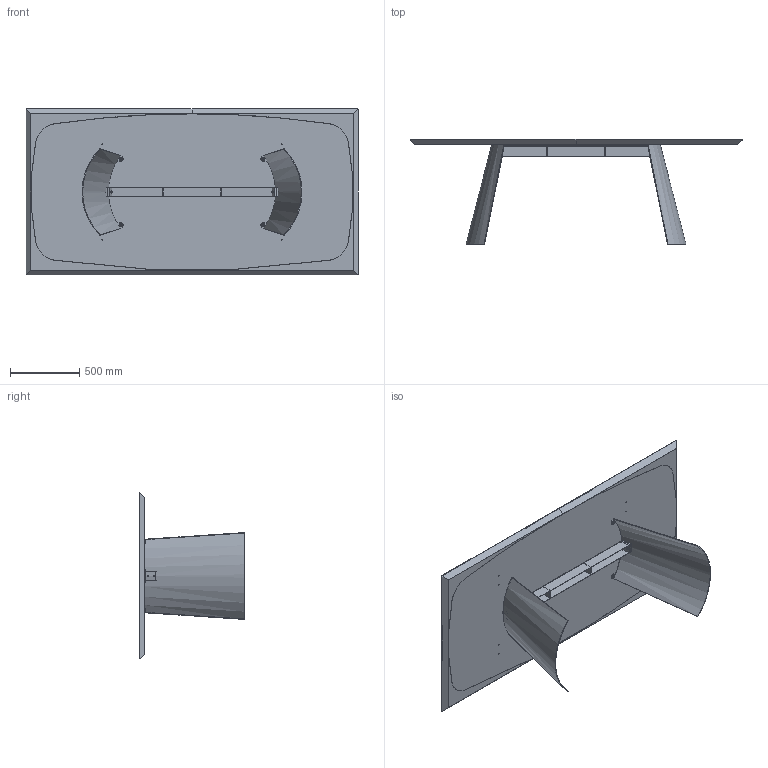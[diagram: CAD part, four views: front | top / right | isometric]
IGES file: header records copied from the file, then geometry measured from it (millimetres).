
Start section: SolidWorks IGES file using analytic representation for surfaces
Global section: file name: Y:\eforma\TECNICO\SOLIDWORKS\E-FORMA\1-TAVOLI\DORIAN\02 parts-rev 01\DN23W.IGS; native system: SolidWorks 2022; preprocessor: SolidWorks 2022; author: eforma.tech; date: 240807.170802; units: millimetre
Bounding box: 2400 x 758 x 1200 mm (x, y, z)
Volume: 207766226.4 mm3; surface area: 13854884.3 mm2
Topology: 39 solids, 39 shells, 751 faces, 1758 edges, 1051 vertices
Faces by surface type: revolution 467, plane 266, bspline 18
